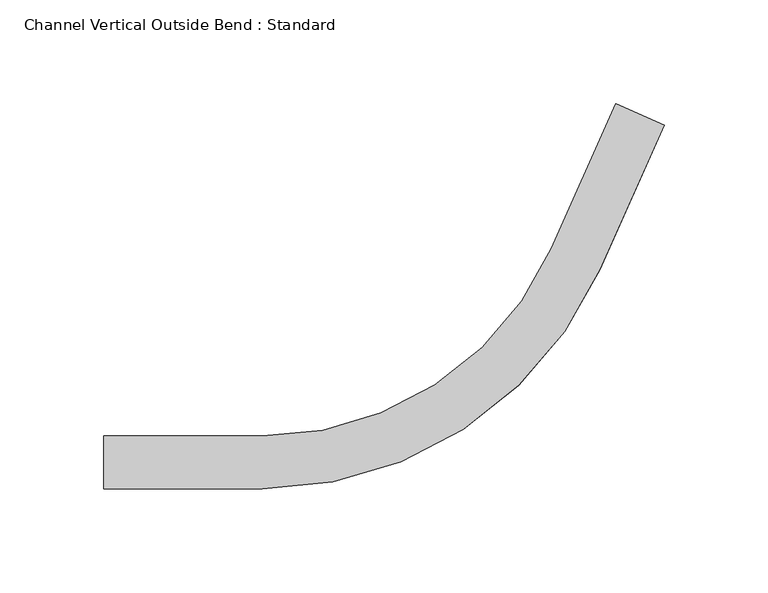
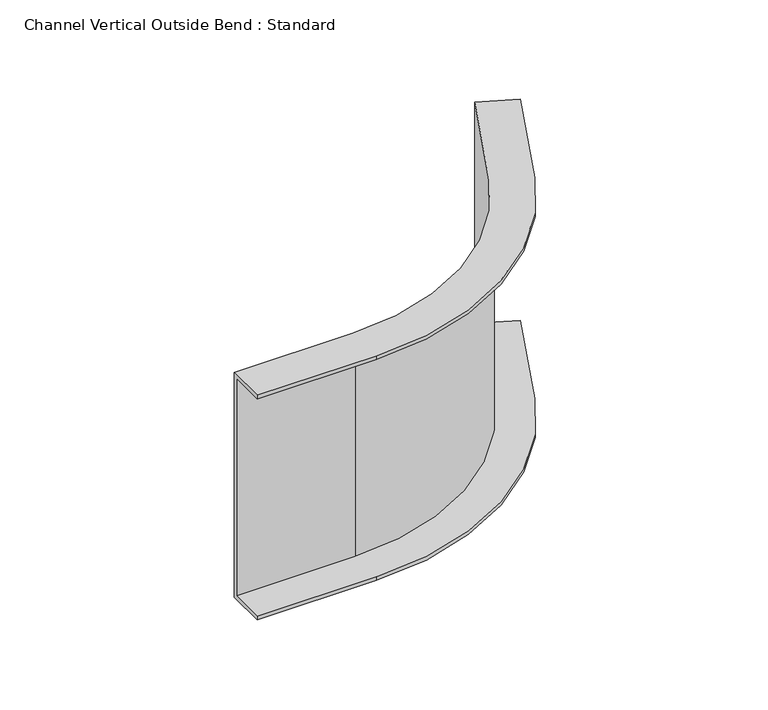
"""IFC4 building model written with IfcOpenShell, lengths in millimetres: cable carrier fitting geometry, Channel Vertical Outside Bend : Standard."""

from ifc_helpers import new_model, si_unit, frame, origin, place, context, project, spatial, polyline, circle_curve, source, transform, mapped, element, save
from ifc_brep_helpers import plane_surface, cylinder_surface, revolved_surface, advanced_brep


def channel_vertical_outside_bend_standard_ca4bb387(model_context):
    return source(origin(), model_context, "Body", "AdvancedBrep", [
        advanced_brep(
        [(-183.4171936, -12.7, 76.2), (-183.4171936, 12.7, 76.2), (-183.4171936, 12.7, -76.2), (-183.4171936, -12.7, -76.2), (-183.4171936, -12.7, -73.66), (-183.4171936, 10.16, -73.66), (-183.4171936, 10.16, 73.66), (-183.4171936, -12.7, 73.66), (86.2045209, 162.3943887, 76.2), (86.2045209, 162.3943887, 73.66), (65.3208718, 171.6923884, 73.66), (65.3208718, 171.6923884, -73.66), (86.2045209, 162.3943887, -73.66), (86.2045209, 162.3943887, -76.2), (63.0004663, 172.7254995, -76.2), (63.0004663, 172.7254995, 76.2), (-107.2171936, -12.7, 76.2), (55.2111887, 92.7822249, 76.2), (32.0071341, 103.1133356, 76.2), (-107.2171936, 12.7, 76.2), (-107.2171936, 12.7, -76.2), (32.0071341, 103.1133356, -76.2), (55.2111887, 92.7822249, -76.2), (-107.2171936, -12.7, -76.2), (-107.2171936, -12.7, -73.66), (55.2111887, 92.7822249, -73.66), (34.3275396, 102.0802245, -73.66), (-107.2171936, 10.16, -73.66), (-107.2171936, 10.16, 73.66), (34.3275396, 102.0802245, 73.66), (55.2111887, 92.7822249, 73.66), (-107.2171936, -12.7, 73.66)],
        [
            (0, 1),
            (1, 2),
            (2, 3),
            (3, 4),
            (4, 5),
            (5, 6),
            (6, 7),
            (7, 0),
            (8, 9),
            (9, 10),
            (10, 11),
            (11, 12),
            (12, 13),
            (13, 14),
            (14, 15),
            (15, 8),
            (0, 16),
            (16, 17, circle_curve(frame((-107.2171936, 165.1, 76.2), z_axis=(0.0, 0.0, 1.0), x_axis=(0.0, -1.0, 0.0)), 177.8)),
            (17, 8),
            (15, 18),
            (18, 19, circle_curve(frame((-107.2171936, 165.1, 76.2), z_axis=(0.0, 0.0, -1.0), x_axis=(0.0, -1.0, 0.0)), 152.4)),
            (19, 1),
            (19, 20),
            (20, 2),
            (20, 21, circle_curve(frame((-107.2171936, 165.1, -76.2), z_axis=(0.0, 0.0, 1.0), x_axis=(0.0, -1.0, 0.0)), 152.4)),
            (21, 14),
            (13, 22),
            (22, 23, circle_curve(frame((-107.2171936, 165.1, -76.2), z_axis=(0.0, 0.0, -1.0), x_axis=(0.0, -1.0, 0.0)), 177.8)),
            (23, 3),
            (23, 24),
            (24, 4),
            (24, 25, circle_curve(frame((-107.2171936, 165.1, -73.66), z_axis=(0.0, 0.0, 1.0), x_axis=(0.0, -1.0, 0.0)), 177.8)),
            (25, 12),
            (11, 26),
            (26, 27, circle_curve(frame((-107.2171936, 165.1, -73.66), z_axis=(0.0, 0.0, -1.0), x_axis=(0.0, -1.0, 0.0)), 154.94)),
            (27, 5),
            (27, 28),
            (28, 6),
            (28, 29, circle_curve(frame((-107.2171936, 165.1, 73.66), z_axis=(0.0, 0.0, 1.0), x_axis=(0.0, -1.0, 0.0)), 154.94)),
            (29, 10),
            (9, 30),
            (30, 31, circle_curve(frame((-107.2171936, 165.1, 73.66), z_axis=(0.0, 0.0, -1.0), x_axis=(0.0, -1.0, 0.0)), 177.8)),
            (31, 7),
            (31, 16),
            (18, 21),
            (22, 25),
            (26, 29),
            (30, 17),
        ],
        [
            plane_surface(frame((-183.4171936, 0.0, 0.0), z_axis=(-1.0, 0.0, 0.0), x_axis=(0.0, 0.0, 1.0))),
            plane_surface(frame((74.6024936, 167.5599441, 0.0), z_axis=(0.4067366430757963, 0.9135454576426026, 0.0), x_axis=(0.0, 0.0, 1.0))),
            plane_surface(frame((-183.4171936, -12.7, 76.2), z_axis=(0.0, 0.0, 1.0), x_axis=(1.0, 0.0, 0.0))),
            plane_surface(frame((-183.4171936, 12.7, 76.2), z_axis=(0.0, 1.0, 0.0), x_axis=(1.0, 0.0, 0.0))),
            plane_surface(frame((-183.4171936, 12.7, -76.2), z_axis=(0.0, 0.0, -1.0), x_axis=(1.0, 0.0, 0.0))),
            plane_surface(frame((-183.4171936, -12.7, -76.2), z_axis=(0.0, -1.0, 0.0), x_axis=(1.0, 0.0, 0.0))),
            plane_surface(frame((-183.4171936, -12.7, -73.66), z_axis=(0.0, 0.0, 1.0), x_axis=(1.0, 0.0, 0.0))),
            plane_surface(frame((-183.4171936, 10.16, -73.66), z_axis=(0.0, -1.0, 0.0), x_axis=(1.0, 0.0, 0.0))),
            plane_surface(frame((-183.4171936, 10.16, 73.66), z_axis=(0.0, 0.0, -1.0), x_axis=(1.0, 0.0, 0.0))),
            plane_surface(frame((-183.4171936, -12.7, 73.66), z_axis=(0.0, -1.0, 0.0), x_axis=(1.0, 0.0, 0.0))),
            revolved_surface(polyline([(-107.2171936, 12.699999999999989, 76.2), (-107.2171936, 12.699999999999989, -76.2)]), (-107.2171936, 165.1, 0.0), (0.0, 0.0, 1.0)),
            cylinder_surface(frame((-107.2171936, 165.1, 0.0), z_axis=(0.0, 0.0, 1.0), x_axis=(0.0, -1.0, 0.0)), 177.8),
            cylinder_surface(frame((-107.2171936, 165.1, 0.0), z_axis=(0.0, 0.0, 1.0), x_axis=(0.0, -1.0, 0.0)), 154.94),
            plane_surface(frame((32.0071341, 103.1133356, 76.2), z_axis=(-0.9135454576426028, 0.4067366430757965, 0.0), x_axis=(0.4067366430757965, 0.9135454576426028, 0.0))),
            plane_surface(frame((55.2111887, 92.7822249, -76.2), z_axis=(0.9135454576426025, -0.4067366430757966, 0.0), x_axis=(0.4067366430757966, 0.9135454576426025, 0.0))),
            plane_surface(frame((34.3275396, 102.0802245, -73.66), z_axis=(0.9135454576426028, -0.40673664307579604, 0.0), x_axis=(0.40673664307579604, 0.9135454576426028, 0.0))),
            plane_surface(frame((55.2111887, 92.7822249, 73.66), z_axis=(0.9135454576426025, -0.4067366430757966, 0.0), x_axis=(0.4067366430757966, 0.9135454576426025, 0.0))),
        ],
        [
            (0, [[1, 2, 3, 4, 5, 6, 7, 8]]),
            (1, [[9, 10, 11, 12, 13, 14, 15, 16]]),
            (2, [[-1, 17, 18, 19, -16, 20, 21, 22]]),
            (3, [[-2, -22, 23, 24]]),
            (4, [[-3, -24, 25, 26, -14, 27, 28, 29]]),
            (5, [[-4, -29, 30, 31]]),
            (6, [[-5, -31, 32, 33, -12, 34, 35, 36]]),
            (7, [[-6, -36, 37, 38]]),
            (8, [[-7, -38, 39, 40, -10, 41, 42, 43]]),
            (9, [[-8, -43, 44, -17]]),
            (10, [[-25, -23, -21, 45]]),
            (11, [[-32, -30, -28, 46]]),
            (12, [[-39, -37, -35, 47]]),
            (11, [[-18, -44, -42, 48]]),
            (13, [[-45, -20, -15, -26]]),
            (14, [[-46, -27, -13, -33]]),
            (15, [[-47, -34, -11, -40]]),
            (16, [[-48, -41, -9, -19]]),
        ],
    ),
    ])


if __name__ == "__main__":
    model = new_model("IFC4")
    model_context = context("Model", 3, world=origin())
    ifc_project = project(units=[si_unit("LENGTHUNIT", "METRE", prefix="MILLI")], contexts=[model_context])
    site = spatial("IfcSite", under=ifc_project)
    building = spatial("IfcBuilding", under=site)
    placement = place(None, origin())
    channel_vertical_outside_bend_standard_shape = channel_vertical_outside_bend_standard_ca4bb387(model_context)
    element("IfcCableCarrierFitting", 1, ObjectType="Channel Vertical Outside Bend : Standard", at=placement, inside=building, context=model_context, shape_type="MappedRepresentation", body=[
        mapped(channel_vertical_outside_bend_standard_shape, transform((0.0, 0.0, 0.0), x_axis=(1.0, 0.0, 0.0), y_axis=(0.0, 1.0, 0.0), z_axis=(0.0, 0.0, 1.0))),
    ])
    save(model, "model.ifc")
